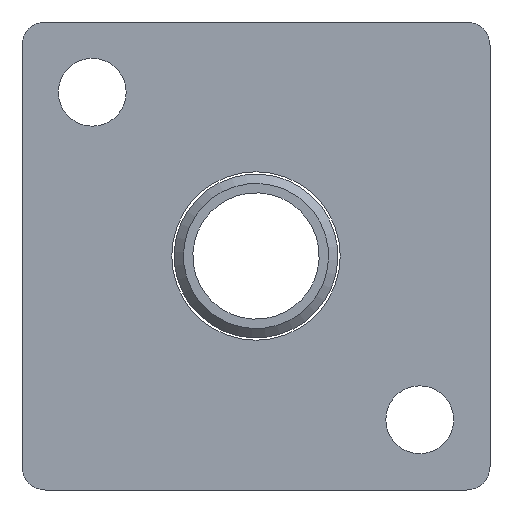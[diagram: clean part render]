
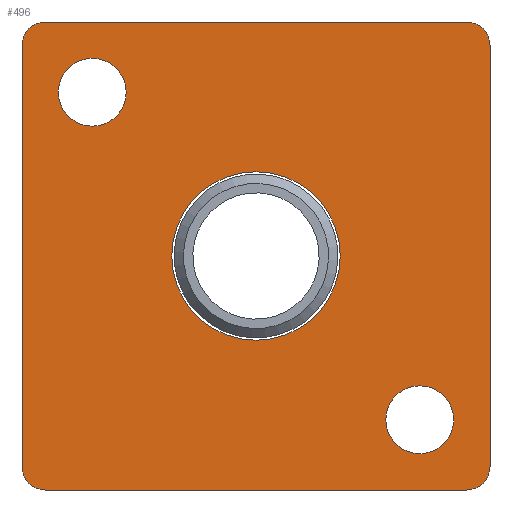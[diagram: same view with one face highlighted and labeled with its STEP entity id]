
A CAD part, front view. The second image highlights one B-rep face of the part: STEP entity #496.
In plain terms, the highlighted planar face has unit normal (0, -1, 0).
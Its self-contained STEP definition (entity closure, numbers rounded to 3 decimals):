
#112=CARTESIAN_POINT('',(-18.0,0.0,0.));
#113=VERTEX_POINT('',#112);
#114=CARTESIAN_POINT('',(0.0,0.0,0.0));
#115=DIRECTION('',(0.0,1.0,0.0));
#116=DIRECTION('',(1.0,0.0,0.0));
#117=AXIS2_PLACEMENT_3D('',#114,#115,#116);
#118=CIRCLE('',#117,18.0);
#119=EDGE_CURVE('',#113,#113,#118,.T.);
#140=CARTESIAN_POINT('',(-42.25,0.0,35.0));
#141=VERTEX_POINT('',#140);
#142=CARTESIAN_POINT('',(-35.,0.0,35.0));
#143=DIRECTION('',(0.0,1.0,0.0));
#144=DIRECTION('',(1.0,0.0,0.0));
#145=AXIS2_PLACEMENT_3D('',#142,#143,#144);
#146=CIRCLE('',#145,7.25);
#147=EDGE_CURVE('',#141,#141,#146,.T.);
#168=CARTESIAN_POINT('',(27.75,0.0,-35.0));
#169=VERTEX_POINT('',#168);
#170=CARTESIAN_POINT('',(35.0,0.0,-35.0));
#171=DIRECTION('',(0.0,1.0,0.0));
#172=DIRECTION('',(1.0,0.0,0.0));
#173=AXIS2_PLACEMENT_3D('',#170,#171,#172);
#174=CIRCLE('',#173,7.25);
#175=EDGE_CURVE('',#169,#169,#174,.T.);
#207=CARTESIAN_POINT('',(45.,0.0,50.0));
#208=VERTEX_POINT('',#207);
#215=CARTESIAN_POINT('',(50.0,0.0,45.0));
#216=VERTEX_POINT('',#215);
#217=CARTESIAN_POINT('',(45.0,0.0,45.0));
#218=DIRECTION('',(0.0,1.,0.0));
#219=DIRECTION('',(0.707,0.0,0.707));
#220=AXIS2_PLACEMENT_3D('',#217,#218,#219);
#221=CIRCLE('',#220,5.);
#222=EDGE_CURVE('',#208,#216,#221,.T.);
#247=CARTESIAN_POINT('',(-45.0,0.0,50.0));
#248=VERTEX_POINT('',#247);
#255=CARTESIAN_POINT('',(-45.0,0.0,50.0));
#256=DIRECTION('',(1.0,0.0,0.0));
#257=VECTOR('',#256,90.0);
#258=LINE('',#255,#257);
#259=EDGE_CURVE('',#248,#208,#258,.T.);
#338=CARTESIAN_POINT('',(50.0,0.0,-45.0));
#339=VERTEX_POINT('',#338);
#346=CARTESIAN_POINT('',(45.0,0.0,-50.0));
#347=VERTEX_POINT('',#346);
#348=CARTESIAN_POINT('',(45.0,0.0,-45.0));
#349=DIRECTION('',(0.0,1.,0.0));
#350=DIRECTION('',(0.707,0.0,-0.707));
#351=AXIS2_PLACEMENT_3D('',#348,#349,#350);
#352=CIRCLE('',#351,5.);
#353=EDGE_CURVE('',#339,#347,#352,.T.);
#370=CARTESIAN_POINT('',(-45.0,0.0,-50.0));
#371=VERTEX_POINT('',#370);
#372=CARTESIAN_POINT('',(45.0,0.0,-50.0));
#373=DIRECTION('',(-1.0,0.0,0.0));
#374=VECTOR('',#373,90.0);
#375=LINE('',#372,#374);
#376=EDGE_CURVE('',#347,#371,#375,.T.);
#395=CARTESIAN_POINT('',(-50.0,0.0,-45.0));
#396=VERTEX_POINT('',#395);
#397=CARTESIAN_POINT('',(-45.0,0.0,-45.0));
#398=DIRECTION('',(0.0,1.,0.0));
#399=DIRECTION('',(-0.707,0.0,-0.707));
#400=AXIS2_PLACEMENT_3D('',#397,#398,#399);
#401=CIRCLE('',#400,5.);
#402=EDGE_CURVE('',#371,#396,#401,.T.);
#419=CARTESIAN_POINT('',(-50.,0.0,45.0));
#420=VERTEX_POINT('',#419);
#427=CARTESIAN_POINT('',(-45.0,0.0,45.0));
#428=DIRECTION('',(0.0,1.,0.0));
#429=DIRECTION('',(-0.707,0.0,0.707));
#430=AXIS2_PLACEMENT_3D('',#427,#428,#429);
#431=CIRCLE('',#430,5.);
#432=EDGE_CURVE('',#420,#248,#431,.T.);
#444=CARTESIAN_POINT('',(-50.0,0.0,-45.0));
#445=DIRECTION('',(0.0,0.0,1.0));
#446=VECTOR('',#445,90.0);
#447=LINE('',#444,#446);
#448=EDGE_CURVE('',#396,#420,#447,.T.);
#461=CARTESIAN_POINT('',(50.0,0.0,45.0));
#462=DIRECTION('',(0.0,0.0,-1.0));
#463=VECTOR('',#462,90.0);
#464=LINE('',#461,#463);
#465=EDGE_CURVE('',#216,#339,#464,.T.);
#472=CARTESIAN_POINT('',(0.,0.0,0.0));
#473=DIRECTION('',(0.0,1.0,0.0));
#474=DIRECTION('',(0.0,0.0,1.0));
#475=AXIS2_PLACEMENT_3D('',#472,#473,#474);
#476=PLANE('',#475);
#477=ORIENTED_EDGE('',*,*,#222,.F.);
#478=ORIENTED_EDGE('',*,*,#259,.F.);
#479=ORIENTED_EDGE('',*,*,#432,.F.);
#480=ORIENTED_EDGE('',*,*,#448,.F.);
#481=ORIENTED_EDGE('',*,*,#402,.F.);
#482=ORIENTED_EDGE('',*,*,#376,.F.);
#483=ORIENTED_EDGE('',*,*,#353,.F.);
#484=ORIENTED_EDGE('',*,*,#465,.F.);
#485=EDGE_LOOP('',(#477,#478,#479,#480,#481,#482,#483,#484));
#486=FACE_OUTER_BOUND('',#485,.T.);
#487=ORIENTED_EDGE('',*,*,#119,.T.);
#488=EDGE_LOOP('',(#487));
#489=FACE_BOUND('',#488,.T.);
#490=ORIENTED_EDGE('',*,*,#147,.T.);
#491=EDGE_LOOP('',(#490));
#492=FACE_BOUND('',#491,.T.);
#493=ORIENTED_EDGE('',*,*,#175,.T.);
#494=EDGE_LOOP('',(#493));
#495=FACE_BOUND('',#494,.T.);
#496=ADVANCED_FACE('',(#486,#489,#492,#495),#476,.F.);
